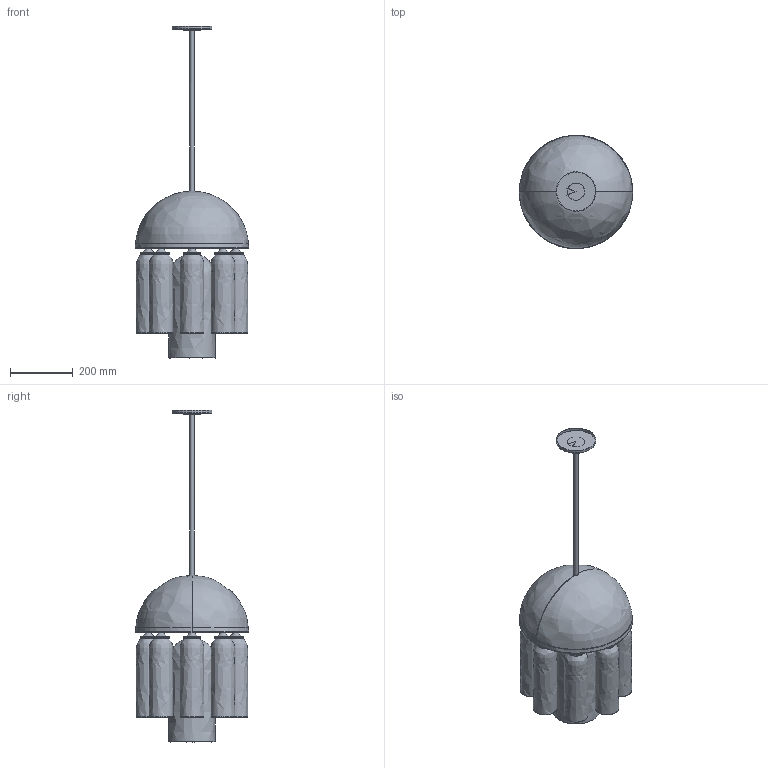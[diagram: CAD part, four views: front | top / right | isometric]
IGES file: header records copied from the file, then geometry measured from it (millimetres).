
Global section: file name: /Users/danielszollosi/Documents/SkLO/Sklo.com/3D models/WEB 3D Models/SkLO_AvroKO_CrownChandelier_3D_LT635.igs; native system: Rhinoceros ( Dec  3 2024 ); preprocessor: Trout Lake IGES 012 Dec  3 2024; date: 250805.152411; units: millimetre
Bounding box: 363 x 362.95 x 1062.38 mm (x, y, z)
Surface area: 2091349.5 mm2 (no closed solid volume)
Topology: 0 solids, 0 shells, 489 faces, 2243 edges, 1946 vertices
Faces by surface type: bspline 489
